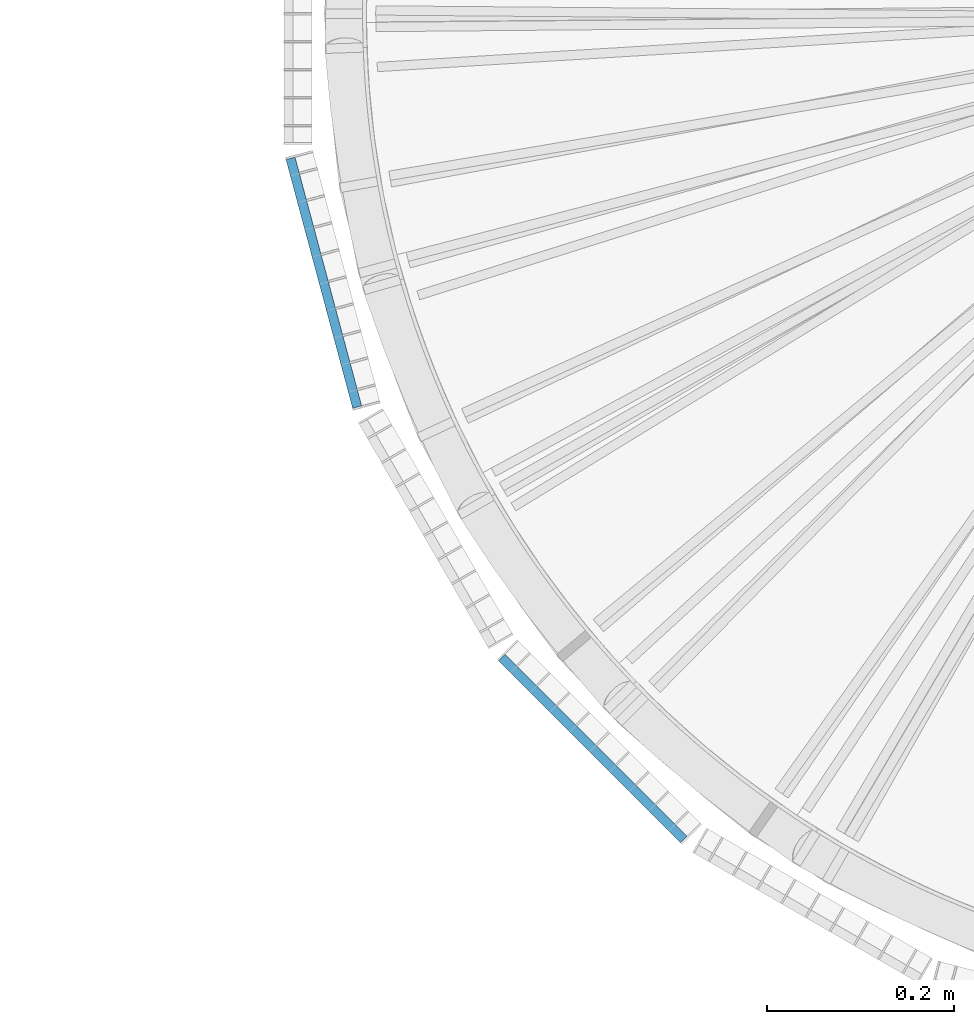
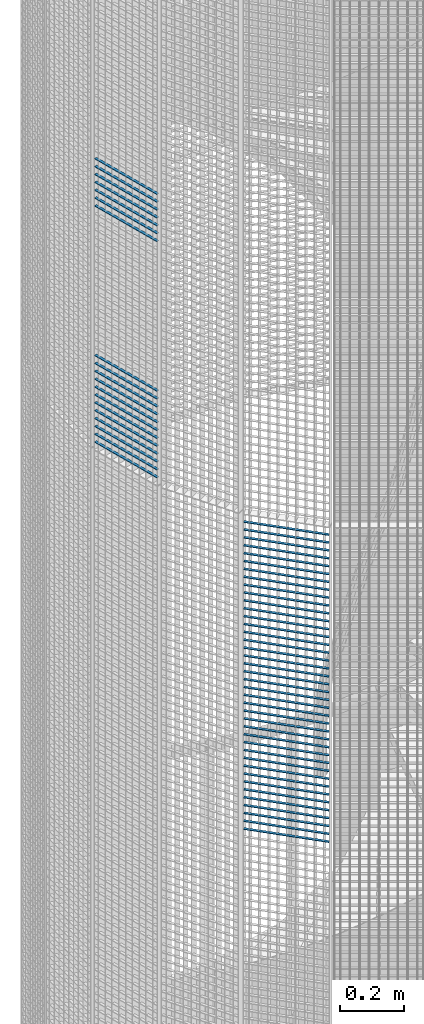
# One storey, part 129 of 1183: 59 beams, 2 elements without a shape of their own.
"""IFC2X3 building model written with IfcOpenShell, lengths in millimetres."""

from ifc_helpers import new_model, si_unit, frame, origin_with_axes, origin_2d_with_axis, place, context, subcontext, project, spatial, rectangle, extrude, material, type_object, element, aggregate, save


model = new_model("IFC2X3")

# Units and contexts
model_context = context("Model", 3, precision=1e-05, world=origin_with_axes())
body_context = subcontext(model_context, "Body", "Model", "MODEL_VIEW")
ifc_project = project(units=[si_unit("LENGTHUNIT", "METRE", prefix="MILLI"), si_unit("AREAUNIT", "SQUARE_METRE"), si_unit("VOLUMEUNIT", "CUBIC_METRE"), si_unit("MASSUNIT", "GRAM", prefix="KILO"), si_unit("TIMEUNIT", "SECOND"), si_unit("PLANEANGLEUNIT", "RADIAN"), si_unit("SOLIDANGLEUNIT", "STERADIAN"), si_unit("THERMODYNAMICTEMPERATUREUNIT", "DEGREE_CELSIUS"), si_unit("LUMINOUSINTENSITYUNIT", "LUMEN")], contexts=[model_context])

# Site, building, storey
site_placement = place(None, origin_with_axes())
site = spatial("IfcSite", under=ifc_project, at=site_placement, Name="Undefined", CompositionType="ELEMENT")
building_placement = place(site_placement, origin_with_axes())
building = spatial("IfcBuilding", under=site, at=building_placement, Name="Undefined", CompositionType="ELEMENT")
storey_placement = place(building_placement, origin_with_axes())
storey = spatial("IfcBuildingStorey", under=building, at=storey_placement, Name="Undefined", CompositionType="ELEMENT", Elevation=0.0)

# Assembly, beams
assembly_1_placement = place(storey_placement, origin_with_axes())
assembly_1 = element("IfcElementAssembly", 1, at=assembly_1_placement, inside=storey, Name="BORDURE", AssemblyPlace="NOTDEFINED", PredefinedType="NOTDEFINED")
ifc_material = material(Name="STEEL/S235JR")
beam_type = type_object("IfcBeamType", Name="PL2*10", PredefinedType="NOTDEFINED")
beam_1_placement = place(assembly_1_placement, frame((-1111.25508286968, -154.895926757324, 3930.0), z_axis=(-0.965925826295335, -0.258819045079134, 0.0), x_axis=(0.258819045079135, -0.965925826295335, 0.0)))
beam_1 = element("IfcBeam", 2, at=beam_1_placement, type_object=beam_type, material=ifc_material, Name="ENTRETOISE", context=body_context, shape_type="SweptSolid", body=[
    extrude(rectangle(XDim=2.0, YDim=10.0, at=origin_2d_with_axis()), frame((275.999999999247, 9.09494701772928e-13, 1.53210777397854e-14), z_axis=(-1.0, 0.0, 0.0), x_axis=(0.0, -1.0, 0.0)), (0.0, 0.0, 1.0), 276.0),
])
beam_2_placement = place(assembly_1_placement, frame((-1111.25508286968, -154.895926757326, 3360.0), z_axis=(-0.965925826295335, -0.258819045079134, 0.0), x_axis=(0.258819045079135, -0.965925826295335, 0.0)))
beam_2 = element("IfcBeam", 3, at=beam_2_placement, type_object=beam_type, material=ifc_material, Name="ENTRETOISE", context=body_context, shape_type="SweptSolid", body=[
    extrude(rectangle(XDim=2.0, YDim=10.0, at=origin_2d_with_axis()), frame((275.999999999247, 9.09494701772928e-13, 1.53210777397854e-14), z_axis=(-1.0, 0.0, 0.0), x_axis=(0.0, -1.0, 0.0)), (0.0, 0.0, 1.0), 276.0),
])
beam_3_placement = place(assembly_1_placement, frame((-1111.25508286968, -154.895926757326, 3330.0), z_axis=(-0.965925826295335, -0.258819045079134, 0.0), x_axis=(0.258819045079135, -0.965925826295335, 0.0)))
beam_3 = element("IfcBeam", 4, at=beam_3_placement, type_object=beam_type, material=ifc_material, Name="ENTRETOISE", context=body_context, shape_type="SweptSolid", body=[
    extrude(rectangle(XDim=2.0, YDim=10.0, at=origin_2d_with_axis()), frame((275.999999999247, 9.09494701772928e-13, 1.53210777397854e-14), z_axis=(-1.0, 0.0, 0.0), x_axis=(0.0, -1.0, 0.0)), (0.0, 0.0, 1.0), 276.0),
])
beam_4_placement = place(assembly_1_placement, frame((-1111.25508286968, -154.895926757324, 3960.0), z_axis=(-0.965925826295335, -0.258819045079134, 0.0), x_axis=(0.258819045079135, -0.965925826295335, 0.0)))
beam_4 = element("IfcBeam", 5, at=beam_4_placement, type_object=beam_type, material=ifc_material, Name="ENTRETOISE", context=body_context, shape_type="SweptSolid", body=[
    extrude(rectangle(XDim=2.0, YDim=10.0, at=origin_2d_with_axis()), frame((275.999999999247, 9.09494701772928e-13, 1.53210777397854e-14), z_axis=(-1.0, 0.0, 0.0), x_axis=(0.0, -1.0, 0.0)), (0.0, 0.0, 1.0), 276.0),
])
beam_5_placement = place(assembly_1_placement, frame((-1111.25508286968, -154.895926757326, 3300.0), z_axis=(-0.965925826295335, -0.258819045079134, 0.0), x_axis=(0.258819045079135, -0.965925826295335, 0.0)))
beam_5 = element("IfcBeam", 6, at=beam_5_placement, type_object=beam_type, material=ifc_material, Name="ENTRETOISE", context=body_context, shape_type="SweptSolid", body=[
    extrude(rectangle(XDim=2.0, YDim=10.0, at=origin_2d_with_axis()), frame((275.999999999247, 9.09494701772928e-13, 1.53210777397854e-14), z_axis=(-1.0, 0.0, 0.0), x_axis=(0.0, -1.0, 0.0)), (0.0, 0.0, 1.0), 276.0),
])
beam_6_placement = place(assembly_1_placement, frame((-1111.25508286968, -154.895926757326, 3270.0), z_axis=(-0.965925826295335, -0.258819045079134, 0.0), x_axis=(0.258819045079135, -0.965925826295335, 0.0)))
beam_6 = element("IfcBeam", 7, at=beam_6_placement, type_object=beam_type, material=ifc_material, Name="ENTRETOISE", context=body_context, shape_type="SweptSolid", body=[
    extrude(rectangle(XDim=2.0, YDim=10.0, at=origin_2d_with_axis()), frame((275.999999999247, 9.09494701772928e-13, 1.53210777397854e-14), z_axis=(-1.0, 0.0, 0.0), x_axis=(0.0, -1.0, 0.0)), (0.0, 0.0, 1.0), 276.0),
])
beam_7_placement = place(assembly_1_placement, frame((-1111.25508286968, -154.895926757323, 3990.0), z_axis=(-0.965925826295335, -0.258819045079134, 0.0), x_axis=(0.258819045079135, -0.965925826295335, 0.0)))
beam_7 = element("IfcBeam", 8, at=beam_7_placement, type_object=beam_type, material=ifc_material, Name="ENTRETOISE", context=body_context, shape_type="SweptSolid", body=[
    extrude(rectangle(XDim=2.0, YDim=10.0, at=origin_2d_with_axis()), frame((275.999999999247, 9.09494701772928e-13, 1.53210777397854e-14), z_axis=(-1.0, 0.0, 0.0), x_axis=(0.0, -1.0, 0.0)), (0.0, 0.0, 1.0), 276.0),
])
beam_8_placement = place(assembly_1_placement, frame((-1111.25508286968, -154.895926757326, 3240.0), z_axis=(-0.965925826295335, -0.258819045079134, 0.0), x_axis=(0.258819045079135, -0.965925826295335, 0.0)))
beam_8 = element("IfcBeam", 9, at=beam_8_placement, type_object=beam_type, material=ifc_material, Name="ENTRETOISE", context=body_context, shape_type="SweptSolid", body=[
    extrude(rectangle(XDim=2.0, YDim=10.0, at=origin_2d_with_axis()), frame((275.999999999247, 9.09494701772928e-13, 1.53210777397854e-14), z_axis=(-1.0, 0.0, 0.0), x_axis=(0.0, -1.0, 0.0)), (0.0, 0.0, 1.0), 276.0),
])
beam_9_placement = place(assembly_1_placement, frame((-1111.25508286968, -154.895926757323, 4020.0), z_axis=(-0.965925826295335, -0.258819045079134, 0.0), x_axis=(0.258819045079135, -0.965925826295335, 0.0)))
beam_9 = element("IfcBeam", 10, at=beam_9_placement, type_object=beam_type, material=ifc_material, Name="ENTRETOISE", context=body_context, shape_type="SweptSolid", body=[
    extrude(rectangle(XDim=2.0, YDim=10.0, at=origin_2d_with_axis()), frame((275.999999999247, 9.09494701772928e-13, 1.53210777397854e-14), z_axis=(-1.0, 0.0, 0.0), x_axis=(0.0, -1.0, 0.0)), (0.0, 0.0, 1.0), 276.0),
])
beam_10_placement = place(assembly_1_placement, frame((-1111.25508286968, -154.895926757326, 3210.0), z_axis=(-0.965925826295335, -0.258819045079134, 0.0), x_axis=(0.258819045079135, -0.965925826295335, 0.0)))
beam_10 = element("IfcBeam", 11, at=beam_10_placement, type_object=beam_type, material=ifc_material, Name="ENTRETOISE", context=body_context, shape_type="SweptSolid", body=[
    extrude(rectangle(XDim=2.0, YDim=10.0, at=origin_2d_with_axis()), frame((275.999999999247, 9.09494701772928e-13, 1.53210777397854e-14), z_axis=(-1.0, 0.0, 0.0), x_axis=(0.0, -1.0, 0.0)), (0.0, 0.0, 1.0), 276.0),
])
beam_11_placement = place(assembly_1_placement, frame((-1111.25508286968, -154.895926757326, 3180.0), z_axis=(-0.965925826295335, -0.258819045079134, 0.0), x_axis=(0.258819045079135, -0.965925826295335, 0.0)))
beam_11 = element("IfcBeam", 12, at=beam_11_placement, type_object=beam_type, material=ifc_material, Name="ENTRETOISE", context=body_context, shape_type="SweptSolid", body=[
    extrude(rectangle(XDim=2.0, YDim=10.0, at=origin_2d_with_axis()), frame((275.999999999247, 9.09494701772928e-13, 1.53210777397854e-14), z_axis=(-1.0, 0.0, 0.0), x_axis=(0.0, -1.0, 0.0)), (0.0, 0.0, 1.0), 276.0),
])
beam_12_placement = place(assembly_1_placement, frame((-1111.25508286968, -154.895926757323, 4050.0), z_axis=(-0.965925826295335, -0.258819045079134, 0.0), x_axis=(0.258819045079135, -0.965925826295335, 0.0)))
beam_12 = element("IfcBeam", 13, at=beam_12_placement, type_object=beam_type, material=ifc_material, Name="ENTRETOISE", context=body_context, shape_type="SweptSolid", body=[
    extrude(rectangle(XDim=2.0, YDim=10.0, at=origin_2d_with_axis()), frame((275.999999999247, 9.09494701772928e-13, 1.53210777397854e-14), z_axis=(-1.0, 0.0, 0.0), x_axis=(0.0, -1.0, 0.0)), (0.0, 0.0, 1.0), 276.0),
])
beam_13_placement = place(assembly_1_placement, frame((-1111.25508286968, -154.895926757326, 3150.0), z_axis=(-0.965925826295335, -0.258819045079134, 0.0), x_axis=(0.258819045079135, -0.965925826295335, 0.0)))
beam_13 = element("IfcBeam", 14, at=beam_13_placement, type_object=beam_type, material=ifc_material, Name="ENTRETOISE", context=body_context, shape_type="SweptSolid", body=[
    extrude(rectangle(XDim=2.0, YDim=10.0, at=origin_2d_with_axis()), frame((275.999999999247, 9.09494701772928e-13, 1.53210777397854e-14), z_axis=(-1.0, 0.0, 0.0), x_axis=(0.0, -1.0, 0.0)), (0.0, 0.0, 1.0), 276.0),
])
beam_14_placement = place(assembly_1_placement, frame((-1111.25508286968, -154.895926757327, 3120.0), z_axis=(-0.965925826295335, -0.258819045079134, 0.0), x_axis=(0.258819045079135, -0.965925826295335, 0.0)))
beam_14 = element("IfcBeam", 15, at=beam_14_placement, type_object=beam_type, material=ifc_material, Name="ENTRETOISE", context=body_context, shape_type="SweptSolid", body=[
    extrude(rectangle(XDim=2.0, YDim=10.0, at=origin_2d_with_axis()), frame((275.999999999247, 9.09494701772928e-13, 1.53210777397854e-14), z_axis=(-1.0, 0.0, 0.0), x_axis=(0.0, -1.0, 0.0)), (0.0, 0.0, 1.0), 276.0),
])
beam_15_placement = place(assembly_1_placement, frame((-1111.25508286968, -154.895926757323, 4080.0), z_axis=(-0.965925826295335, -0.258819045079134, 0.0), x_axis=(0.258819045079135, -0.965925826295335, 0.0)))
beam_15 = element("IfcBeam", 16, at=beam_15_placement, type_object=beam_type, material=ifc_material, Name="ENTRETOISE", context=body_context, shape_type="SweptSolid", body=[
    extrude(rectangle(XDim=2.0, YDim=10.0, at=origin_2d_with_axis()), frame((275.999999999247, 9.09494701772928e-13, 1.53210777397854e-14), z_axis=(-1.0, 0.0, 0.0), x_axis=(0.0, -1.0, 0.0)), (0.0, 0.0, 1.0), 276.0),
])
beam_16_placement = place(assembly_1_placement, frame((-1111.25508286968, -154.895926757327, 3090.0), z_axis=(-0.965925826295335, -0.258819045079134, 0.0), x_axis=(0.258819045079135, -0.965925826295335, 0.0)))
beam_16 = element("IfcBeam", 17, at=beam_16_placement, type_object=beam_type, material=ifc_material, Name="ENTRETOISE", context=body_context, shape_type="SweptSolid", body=[
    extrude(rectangle(XDim=2.0, YDim=10.0, at=origin_2d_with_axis()), frame((275.999999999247, 9.09494701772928e-13, 1.53210777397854e-14), z_axis=(-1.0, 0.0, 0.0), x_axis=(0.0, -1.0, 0.0)), (0.0, 0.0, 1.0), 276.0),
])
beam_17_placement = place(assembly_1_placement, frame((-1111.25508286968, -154.895926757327, 3060.0), z_axis=(-0.965925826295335, -0.258819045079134, 0.0), x_axis=(0.258819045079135, -0.965925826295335, 0.0)))
beam_17 = element("IfcBeam", 18, at=beam_17_placement, type_object=beam_type, material=ifc_material, Name="ENTRETOISE", context=body_context, shape_type="SweptSolid", body=[
    extrude(rectangle(XDim=2.0, YDim=10.0, at=origin_2d_with_axis()), frame((275.999999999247, 9.09494701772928e-13, 1.53210777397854e-14), z_axis=(-1.0, 0.0, 0.0), x_axis=(0.0, -1.0, 0.0)), (0.0, 0.0, 1.0), 276.0),
])
beam_18_placement = place(assembly_1_placement, frame((-1111.25508286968, -154.895926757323, 4110.0), z_axis=(-0.965925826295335, -0.258819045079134, 0.0), x_axis=(0.258819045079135, -0.965925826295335, 0.0)))
beam_18 = element("IfcBeam", 19, at=beam_18_placement, type_object=beam_type, material=ifc_material, Name="ENTRETOISE", context=body_context, shape_type="SweptSolid", body=[
    extrude(rectangle(XDim=2.0, YDim=10.0, at=origin_2d_with_axis()), frame((275.999999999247, 9.09494701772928e-13, 1.53210777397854e-14), z_axis=(-1.0, 0.0, 0.0), x_axis=(0.0, -1.0, 0.0)), (0.0, 0.0, 1.0), 276.0),
])
beam_19_placement = place(assembly_1_placement, frame((-1111.25508286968, -154.895926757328, 3030.0), z_axis=(-0.965925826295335, -0.258819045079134, 0.0), x_axis=(0.258819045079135, -0.965925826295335, 0.0)))
beam_19 = element("IfcBeam", 20, at=beam_19_placement, type_object=beam_type, material=ifc_material, Name="ENTRETOISE", context=body_context, shape_type="SweptSolid", body=[
    extrude(rectangle(XDim=2.0, YDim=10.0, at=origin_2d_with_axis()), frame((275.999999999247, 9.09494701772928e-13, 1.53210777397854e-14), z_axis=(-1.0, 0.0, 0.0), x_axis=(0.0, -1.0, 0.0)), (0.0, 0.0, 1.0), 276.0),
])
aggregate(assembly_1, [beam_1, beam_2, beam_3, beam_4, beam_5, beam_6, beam_7, beam_8, beam_9, beam_10, beam_11, beam_12, beam_13, beam_14, beam_15, beam_16, beam_17, beam_18, beam_19])

assembly_2_placement = place(storey_placement, origin_with_axes())
assembly_2 = element("IfcElementAssembly", 21, at=assembly_2_placement, inside=storey, Name="BORDURE", AssemblyPlace="NOTDEFINED", PredefinedType="NOTDEFINED")
beam_20_placement = place(assembly_2_placement, frame((-884.927168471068, -689.771348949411, 2970.0), z_axis=(-0.70710678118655, -0.707106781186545, 0.0), x_axis=(0.707106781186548, -0.707106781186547, 0.0)))
beam_20 = element("IfcBeam", 22, at=beam_20_placement, type_object=beam_type, material=ifc_material, Name="ENTRETOISE", context=body_context, shape_type="SweptSolid", body=[
    extrude(rectangle(XDim=2.0, YDim=10.0, at=origin_2d_with_axis()), frame((275.999999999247, 9.09494701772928e-13, 1.53210777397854e-14), z_axis=(-1.0, 0.0, 0.0), x_axis=(0.0, -1.0, 0.0)), (0.0, 0.0, 1.0), 276.0),
])
beam_21_placement = place(assembly_2_placement, frame((-884.927168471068, -689.771348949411, 2940.0), z_axis=(-0.70710678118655, -0.707106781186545, 0.0), x_axis=(0.707106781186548, -0.707106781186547, 0.0)))
beam_21 = element("IfcBeam", 23, at=beam_21_placement, type_object=beam_type, material=ifc_material, Name="ENTRETOISE", context=body_context, shape_type="SweptSolid", body=[
    extrude(rectangle(XDim=2.0, YDim=10.0, at=origin_2d_with_axis()), frame((275.999999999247, 9.09494701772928e-13, 1.53210777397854e-14), z_axis=(-1.0, 0.0, 0.0), x_axis=(0.0, -1.0, 0.0)), (0.0, 0.0, 1.0), 276.0),
])
beam_22_placement = place(assembly_2_placement, frame((-884.927168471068, -689.771348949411, 2910.0), z_axis=(-0.70710678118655, -0.707106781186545, 0.0), x_axis=(0.707106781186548, -0.707106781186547, 0.0)))
beam_22 = element("IfcBeam", 24, at=beam_22_placement, type_object=beam_type, material=ifc_material, Name="ENTRETOISE", context=body_context, shape_type="SweptSolid", body=[
    extrude(rectangle(XDim=2.0, YDim=10.0, at=origin_2d_with_axis()), frame((275.999999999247, 9.09494701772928e-13, 1.53210777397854e-14), z_axis=(-1.0, 0.0, 0.0), x_axis=(0.0, -1.0, 0.0)), (0.0, 0.0, 1.0), 276.0),
])
beam_23_placement = place(assembly_2_placement, frame((-884.927168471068, -689.771348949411, 2880.0), z_axis=(-0.70710678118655, -0.707106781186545, 0.0), x_axis=(0.707106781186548, -0.707106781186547, 0.0)))
beam_23 = element("IfcBeam", 25, at=beam_23_placement, type_object=beam_type, material=ifc_material, Name="ENTRETOISE", context=body_context, shape_type="SweptSolid", body=[
    extrude(rectangle(XDim=2.0, YDim=10.0, at=origin_2d_with_axis()), frame((275.999999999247, 9.09494701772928e-13, 1.53210777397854e-14), z_axis=(-1.0, 0.0, 0.0), x_axis=(0.0, -1.0, 0.0)), (0.0, 0.0, 1.0), 276.0),
])
beam_24_placement = place(assembly_2_placement, frame((-884.927168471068, -689.771348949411, 2850.0), z_axis=(-0.70710678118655, -0.707106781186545, 0.0), x_axis=(0.707106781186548, -0.707106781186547, 0.0)))
beam_24 = element("IfcBeam", 26, at=beam_24_placement, type_object=beam_type, material=ifc_material, Name="ENTRETOISE", context=body_context, shape_type="SweptSolid", body=[
    extrude(rectangle(XDim=2.0, YDim=10.0, at=origin_2d_with_axis()), frame((275.999999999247, 9.09494701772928e-13, 1.53210777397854e-14), z_axis=(-1.0, 0.0, 0.0), x_axis=(0.0, -1.0, 0.0)), (0.0, 0.0, 1.0), 276.0),
])
beam_25_placement = place(assembly_2_placement, frame((-884.927168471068, -689.771348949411, 2820.0), z_axis=(-0.70710678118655, -0.707106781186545, 0.0), x_axis=(0.707106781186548, -0.707106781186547, 0.0)))
beam_25 = element("IfcBeam", 27, at=beam_25_placement, type_object=beam_type, material=ifc_material, Name="ENTRETOISE", context=body_context, shape_type="SweptSolid", body=[
    extrude(rectangle(XDim=2.0, YDim=10.0, at=origin_2d_with_axis()), frame((275.999999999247, 9.09494701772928e-13, 1.53210777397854e-14), z_axis=(-1.0, 0.0, 0.0), x_axis=(0.0, -1.0, 0.0)), (0.0, 0.0, 1.0), 276.0),
])
beam_26_placement = place(assembly_2_placement, frame((-884.927168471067, -689.771348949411, 2790.0), z_axis=(-0.70710678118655, -0.707106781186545, 0.0), x_axis=(0.707106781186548, -0.707106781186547, 0.0)))
beam_26 = element("IfcBeam", 28, at=beam_26_placement, type_object=beam_type, material=ifc_material, Name="ENTRETOISE", context=body_context, shape_type="SweptSolid", body=[
    extrude(rectangle(XDim=2.0, YDim=10.0, at=origin_2d_with_axis()), frame((275.999999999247, 9.09494701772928e-13, 1.53210777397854e-14), z_axis=(-1.0, 0.0, 0.0), x_axis=(0.0, -1.0, 0.0)), (0.0, 0.0, 1.0), 276.0),
])
beam_27_placement = place(assembly_2_placement, frame((-884.927168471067, -689.771348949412, 2760.0), z_axis=(-0.70710678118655, -0.707106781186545, 0.0), x_axis=(0.707106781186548, -0.707106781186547, 0.0)))
beam_27 = element("IfcBeam", 29, at=beam_27_placement, type_object=beam_type, material=ifc_material, Name="ENTRETOISE", context=body_context, shape_type="SweptSolid", body=[
    extrude(rectangle(XDim=2.0, YDim=10.0, at=origin_2d_with_axis()), frame((275.999999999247, 9.09494701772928e-13, 1.53210777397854e-14), z_axis=(-1.0, 0.0, 0.0), x_axis=(0.0, -1.0, 0.0)), (0.0, 0.0, 1.0), 276.0),
])
beam_28_placement = place(assembly_2_placement, frame((-884.927168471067, -689.771348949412, 2730.0), z_axis=(-0.70710678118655, -0.707106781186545, 0.0), x_axis=(0.707106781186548, -0.707106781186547, 0.0)))
beam_28 = element("IfcBeam", 30, at=beam_28_placement, type_object=beam_type, material=ifc_material, Name="ENTRETOISE", context=body_context, shape_type="SweptSolid", body=[
    extrude(rectangle(XDim=2.0, YDim=10.0, at=origin_2d_with_axis()), frame((275.999999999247, 9.09494701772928e-13, 1.53210777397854e-14), z_axis=(-1.0, 0.0, 0.0), x_axis=(0.0, -1.0, 0.0)), (0.0, 0.0, 1.0), 276.0),
])
beam_29_placement = place(assembly_2_placement, frame((-884.927168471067, -689.771348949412, 2700.0), z_axis=(-0.70710678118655, -0.707106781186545, 0.0), x_axis=(0.707106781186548, -0.707106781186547, 0.0)))
beam_29 = element("IfcBeam", 31, at=beam_29_placement, type_object=beam_type, material=ifc_material, Name="ENTRETOISE", context=body_context, shape_type="SweptSolid", body=[
    extrude(rectangle(XDim=2.0, YDim=10.0, at=origin_2d_with_axis()), frame((275.999999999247, 9.09494701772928e-13, 1.53210777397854e-14), z_axis=(-1.0, 0.0, 0.0), x_axis=(0.0, -1.0, 0.0)), (0.0, 0.0, 1.0), 276.0),
])
beam_30_placement = place(assembly_2_placement, frame((-884.927168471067, -689.771348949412, 2670.0), z_axis=(-0.70710678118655, -0.707106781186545, 0.0), x_axis=(0.707106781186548, -0.707106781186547, 0.0)))
beam_30 = element("IfcBeam", 32, at=beam_30_placement, type_object=beam_type, material=ifc_material, Name="ENTRETOISE", context=body_context, shape_type="SweptSolid", body=[
    extrude(rectangle(XDim=2.0, YDim=10.0, at=origin_2d_with_axis()), frame((275.999999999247, 9.09494701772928e-13, 1.53210777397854e-14), z_axis=(-1.0, 0.0, 0.0), x_axis=(0.0, -1.0, 0.0)), (0.0, 0.0, 1.0), 276.0),
])
beam_31_placement = place(assembly_2_placement, frame((-884.927168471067, -689.771348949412, 2640.0), z_axis=(-0.70710678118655, -0.707106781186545, 0.0), x_axis=(0.707106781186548, -0.707106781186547, 0.0)))
beam_31 = element("IfcBeam", 33, at=beam_31_placement, type_object=beam_type, material=ifc_material, Name="ENTRETOISE", context=body_context, shape_type="SweptSolid", body=[
    extrude(rectangle(XDim=2.0, YDim=10.0, at=origin_2d_with_axis()), frame((275.999999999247, 9.09494701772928e-13, 1.53210777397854e-14), z_axis=(-1.0, 0.0, 0.0), x_axis=(0.0, -1.0, 0.0)), (0.0, 0.0, 1.0), 276.0),
])
beam_32_placement = place(assembly_2_placement, frame((-884.927168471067, -689.771348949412, 2610.0), z_axis=(-0.70710678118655, -0.707106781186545, 0.0), x_axis=(0.707106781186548, -0.707106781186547, 0.0)))
beam_32 = element("IfcBeam", 34, at=beam_32_placement, type_object=beam_type, material=ifc_material, Name="ENTRETOISE", context=body_context, shape_type="SweptSolid", body=[
    extrude(rectangle(XDim=2.0, YDim=10.0, at=origin_2d_with_axis()), frame((275.999999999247, 9.09494701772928e-13, 1.53210777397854e-14), z_axis=(-1.0, 0.0, 0.0), x_axis=(0.0, -1.0, 0.0)), (0.0, 0.0, 1.0), 276.0),
])
beam_33_placement = place(assembly_2_placement, frame((-884.927168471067, -689.771348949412, 2580.0), z_axis=(-0.70710678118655, -0.707106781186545, 0.0), x_axis=(0.707106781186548, -0.707106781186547, 0.0)))
beam_33 = element("IfcBeam", 35, at=beam_33_placement, type_object=beam_type, material=ifc_material, Name="ENTRETOISE", context=body_context, shape_type="SweptSolid", body=[
    extrude(rectangle(XDim=2.0, YDim=10.0, at=origin_2d_with_axis()), frame((275.999999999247, 9.09494701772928e-13, 1.53210777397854e-14), z_axis=(-1.0, 0.0, 0.0), x_axis=(0.0, -1.0, 0.0)), (0.0, 0.0, 1.0), 276.0),
])
beam_34_placement = place(assembly_2_placement, frame((-884.927168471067, -689.771348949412, 2550.0), z_axis=(-0.70710678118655, -0.707106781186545, 0.0), x_axis=(0.707106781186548, -0.707106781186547, 0.0)))
beam_34 = element("IfcBeam", 36, at=beam_34_placement, type_object=beam_type, material=ifc_material, Name="ENTRETOISE", context=body_context, shape_type="SweptSolid", body=[
    extrude(rectangle(XDim=2.0, YDim=10.0, at=origin_2d_with_axis()), frame((275.999999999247, 9.09494701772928e-13, 1.53210777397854e-14), z_axis=(-1.0, 0.0, 0.0), x_axis=(0.0, -1.0, 0.0)), (0.0, 0.0, 1.0), 276.0),
])
beam_35_placement = place(assembly_2_placement, frame((-884.927168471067, -689.771348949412, 2520.0), z_axis=(-0.70710678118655, -0.707106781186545, 0.0), x_axis=(0.707106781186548, -0.707106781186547, 0.0)))
beam_35 = element("IfcBeam", 37, at=beam_35_placement, type_object=beam_type, material=ifc_material, Name="ENTRETOISE", context=body_context, shape_type="SweptSolid", body=[
    extrude(rectangle(XDim=2.0, YDim=10.0, at=origin_2d_with_axis()), frame((275.999999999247, 9.09494701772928e-13, 1.53210777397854e-14), z_axis=(-1.0, 0.0, 0.0), x_axis=(0.0, -1.0, 0.0)), (0.0, 0.0, 1.0), 276.0),
])
beam_36_placement = place(assembly_2_placement, frame((-884.927168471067, -689.771348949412, 2490.0), z_axis=(-0.70710678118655, -0.707106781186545, 0.0), x_axis=(0.707106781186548, -0.707106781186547, 0.0)))
beam_36 = element("IfcBeam", 38, at=beam_36_placement, type_object=beam_type, material=ifc_material, Name="ENTRETOISE", context=body_context, shape_type="SweptSolid", body=[
    extrude(rectangle(XDim=2.0, YDim=10.0, at=origin_2d_with_axis()), frame((275.999999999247, 9.09494701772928e-13, 1.53210777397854e-14), z_axis=(-1.0, 0.0, 0.0), x_axis=(0.0, -1.0, 0.0)), (0.0, 0.0, 1.0), 276.0),
])
beam_37_placement = place(assembly_2_placement, frame((-884.927168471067, -689.771348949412, 2460.0), z_axis=(-0.70710678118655, -0.707106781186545, 0.0), x_axis=(0.707106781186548, -0.707106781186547, 0.0)))
beam_37 = element("IfcBeam", 39, at=beam_37_placement, type_object=beam_type, material=ifc_material, Name="ENTRETOISE", context=body_context, shape_type="SweptSolid", body=[
    extrude(rectangle(XDim=2.0, YDim=10.0, at=origin_2d_with_axis()), frame((275.999999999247, 9.09494701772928e-13, 1.53210777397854e-14), z_axis=(-1.0, 0.0, 0.0), x_axis=(0.0, -1.0, 0.0)), (0.0, 0.0, 1.0), 276.0),
])
beam_38_placement = place(assembly_2_placement, frame((-884.927168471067, -689.771348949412, 2430.0), z_axis=(-0.70710678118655, -0.707106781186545, 0.0), x_axis=(0.707106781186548, -0.707106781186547, 0.0)))
beam_38 = element("IfcBeam", 40, at=beam_38_placement, type_object=beam_type, material=ifc_material, Name="ENTRETOISE", context=body_context, shape_type="SweptSolid", body=[
    extrude(rectangle(XDim=2.0, YDim=10.0, at=origin_2d_with_axis()), frame((275.999999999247, 9.09494701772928e-13, 1.53210777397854e-14), z_axis=(-1.0, 0.0, 0.0), x_axis=(0.0, -1.0, 0.0)), (0.0, 0.0, 1.0), 276.0),
])
beam_39_placement = place(assembly_2_placement, frame((-884.927168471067, -689.771348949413, 2400.0), z_axis=(-0.70710678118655, -0.707106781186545, 0.0), x_axis=(0.707106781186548, -0.707106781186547, 0.0)))
beam_39 = element("IfcBeam", 41, at=beam_39_placement, type_object=beam_type, material=ifc_material, Name="ENTRETOISE", context=body_context, shape_type="SweptSolid", body=[
    extrude(rectangle(XDim=2.0, YDim=10.0, at=origin_2d_with_axis()), frame((275.999999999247, 9.09494701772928e-13, 1.53210777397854e-14), z_axis=(-1.0, 0.0, 0.0), x_axis=(0.0, -1.0, 0.0)), (0.0, 0.0, 1.0), 276.0),
])
beam_40_placement = place(assembly_2_placement, frame((-884.927168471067, -689.771348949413, 2370.0), z_axis=(-0.70710678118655, -0.707106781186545, 0.0), x_axis=(0.707106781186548, -0.707106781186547, 0.0)))
beam_40 = element("IfcBeam", 42, at=beam_40_placement, type_object=beam_type, material=ifc_material, Name="ENTRETOISE", context=body_context, shape_type="SweptSolid", body=[
    extrude(rectangle(XDim=2.0, YDim=10.0, at=origin_2d_with_axis()), frame((275.999999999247, 9.09494701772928e-13, 1.53210777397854e-14), z_axis=(-1.0, 0.0, 0.0), x_axis=(0.0, -1.0, 0.0)), (0.0, 0.0, 1.0), 276.0),
])
beam_41_placement = place(assembly_2_placement, frame((-884.927168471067, -689.771348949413, 2340.0), z_axis=(-0.70710678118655, -0.707106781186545, 0.0), x_axis=(0.707106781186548, -0.707106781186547, 0.0)))
beam_41 = element("IfcBeam", 43, at=beam_41_placement, type_object=beam_type, material=ifc_material, Name="ENTRETOISE", context=body_context, shape_type="SweptSolid", body=[
    extrude(rectangle(XDim=2.0, YDim=10.0, at=origin_2d_with_axis()), frame((275.999999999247, 9.09494701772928e-13, 1.53210777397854e-14), z_axis=(-1.0, 0.0, 0.0), x_axis=(0.0, -1.0, 0.0)), (0.0, 0.0, 1.0), 276.0),
])
beam_42_placement = place(assembly_2_placement, frame((-884.927168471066, -689.771348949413, 2310.0), z_axis=(-0.70710678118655, -0.707106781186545, 0.0), x_axis=(0.707106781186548, -0.707106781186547, 0.0)))
beam_42 = element("IfcBeam", 44, at=beam_42_placement, type_object=beam_type, material=ifc_material, Name="ENTRETOISE", context=body_context, shape_type="SweptSolid", body=[
    extrude(rectangle(XDim=2.0, YDim=10.0, at=origin_2d_with_axis()), frame((275.999999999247, 9.09494701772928e-13, 1.53210777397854e-14), z_axis=(-1.0, 0.0, 0.0), x_axis=(0.0, -1.0, 0.0)), (0.0, 0.0, 1.0), 276.0),
])
beam_43_placement = place(assembly_2_placement, frame((-884.927168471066, -689.771348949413, 2280.0), z_axis=(-0.70710678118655, -0.707106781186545, 0.0), x_axis=(0.707106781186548, -0.707106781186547, 0.0)))
beam_43 = element("IfcBeam", 45, at=beam_43_placement, type_object=beam_type, material=ifc_material, Name="ENTRETOISE", context=body_context, shape_type="SweptSolid", body=[
    extrude(rectangle(XDim=2.0, YDim=10.0, at=origin_2d_with_axis()), frame((275.999999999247, 9.09494701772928e-13, 1.53210777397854e-14), z_axis=(-1.0, 0.0, 0.0), x_axis=(0.0, -1.0, 0.0)), (0.0, 0.0, 1.0), 276.0),
])
beam_44_placement = place(assembly_2_placement, frame((-884.927168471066, -689.771348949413, 2250.0), z_axis=(-0.70710678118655, -0.707106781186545, 0.0), x_axis=(0.707106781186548, -0.707106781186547, 0.0)))
beam_44 = element("IfcBeam", 46, at=beam_44_placement, type_object=beam_type, material=ifc_material, Name="ENTRETOISE", context=body_context, shape_type="SweptSolid", body=[
    extrude(rectangle(XDim=2.0, YDim=10.0, at=origin_2d_with_axis()), frame((275.999999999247, 9.09494701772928e-13, 1.53210777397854e-14), z_axis=(-1.0, 0.0, 0.0), x_axis=(0.0, -1.0, 0.0)), (0.0, 0.0, 1.0), 276.0),
])
beam_45_placement = place(assembly_2_placement, frame((-884.927168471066, -689.771348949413, 2220.0), z_axis=(-0.70710678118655, -0.707106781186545, 0.0), x_axis=(0.707106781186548, -0.707106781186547, 0.0)))
beam_45 = element("IfcBeam", 47, at=beam_45_placement, type_object=beam_type, material=ifc_material, Name="ENTRETOISE", context=body_context, shape_type="SweptSolid", body=[
    extrude(rectangle(XDim=2.0, YDim=10.0, at=origin_2d_with_axis()), frame((275.999999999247, 9.09494701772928e-13, 1.53210777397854e-14), z_axis=(-1.0, 0.0, 0.0), x_axis=(0.0, -1.0, 0.0)), (0.0, 0.0, 1.0), 276.0),
])
beam_46_placement = place(assembly_2_placement, frame((-884.927168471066, -689.771348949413, 2190.0), z_axis=(-0.70710678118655, -0.707106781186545, 0.0), x_axis=(0.707106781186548, -0.707106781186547, 0.0)))
beam_46 = element("IfcBeam", 48, at=beam_46_placement, type_object=beam_type, material=ifc_material, Name="ENTRETOISE", context=body_context, shape_type="SweptSolid", body=[
    extrude(rectangle(XDim=2.0, YDim=10.0, at=origin_2d_with_axis()), frame((275.999999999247, 9.09494701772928e-13, 1.53210777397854e-14), z_axis=(-1.0, 0.0, 0.0), x_axis=(0.0, -1.0, 0.0)), (0.0, 0.0, 1.0), 276.0),
])
beam_47_placement = place(assembly_2_placement, frame((-884.927168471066, -689.771348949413, 2160.0), z_axis=(-0.70710678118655, -0.707106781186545, 0.0), x_axis=(0.707106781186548, -0.707106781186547, 0.0)))
beam_47 = element("IfcBeam", 49, at=beam_47_placement, type_object=beam_type, material=ifc_material, Name="ENTRETOISE", context=body_context, shape_type="SweptSolid", body=[
    extrude(rectangle(XDim=2.0, YDim=10.0, at=origin_2d_with_axis()), frame((275.999999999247, 9.09494701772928e-13, 1.53210777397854e-14), z_axis=(-1.0, 0.0, 0.0), x_axis=(0.0, -1.0, 0.0)), (0.0, 0.0, 1.0), 276.0),
])
beam_48_placement = place(assembly_2_placement, frame((-884.927168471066, -689.771348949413, 2130.0), z_axis=(-0.70710678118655, -0.707106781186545, 0.0), x_axis=(0.707106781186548, -0.707106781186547, 0.0)))
beam_48 = element("IfcBeam", 50, at=beam_48_placement, type_object=beam_type, material=ifc_material, Name="ENTRETOISE", context=body_context, shape_type="SweptSolid", body=[
    extrude(rectangle(XDim=2.0, YDim=10.0, at=origin_2d_with_axis()), frame((275.999999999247, 9.09494701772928e-13, 1.53210777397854e-14), z_axis=(-1.0, 0.0, 0.0), x_axis=(0.0, -1.0, 0.0)), (0.0, 0.0, 1.0), 276.0),
])
beam_49_placement = place(assembly_2_placement, frame((-884.927168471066, -689.771348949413, 2100.0), z_axis=(-0.70710678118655, -0.707106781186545, 0.0), x_axis=(0.707106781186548, -0.707106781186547, 0.0)))
beam_49 = element("IfcBeam", 51, at=beam_49_placement, type_object=beam_type, material=ifc_material, Name="ENTRETOISE", context=body_context, shape_type="SweptSolid", body=[
    extrude(rectangle(XDim=2.0, YDim=10.0, at=origin_2d_with_axis()), frame((275.999999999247, 9.09494701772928e-13, 1.53210777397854e-14), z_axis=(-1.0, 0.0, 0.0), x_axis=(0.0, -1.0, 0.0)), (0.0, 0.0, 1.0), 276.0),
])
beam_50_placement = place(assembly_2_placement, frame((-884.927168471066, -689.771348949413, 2070.0), z_axis=(-0.70710678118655, -0.707106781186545, 0.0), x_axis=(0.707106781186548, -0.707106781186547, 0.0)))
beam_50 = element("IfcBeam", 52, at=beam_50_placement, type_object=beam_type, material=ifc_material, Name="ENTRETOISE", context=body_context, shape_type="SweptSolid", body=[
    extrude(rectangle(XDim=2.0, YDim=10.0, at=origin_2d_with_axis()), frame((275.999999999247, 9.09494701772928e-13, 1.53210777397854e-14), z_axis=(-1.0, 0.0, 0.0), x_axis=(0.0, -1.0, 0.0)), (0.0, 0.0, 1.0), 276.0),
])
beam_51_placement = place(assembly_2_placement, frame((-884.927168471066, -689.771348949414, 2040.0), z_axis=(-0.70710678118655, -0.707106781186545, 0.0), x_axis=(0.707106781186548, -0.707106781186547, 0.0)))
beam_51 = element("IfcBeam", 53, at=beam_51_placement, type_object=beam_type, material=ifc_material, Name="ENTRETOISE", context=body_context, shape_type="SweptSolid", body=[
    extrude(rectangle(XDim=2.0, YDim=10.0, at=origin_2d_with_axis()), frame((275.999999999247, 9.09494701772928e-13, 1.53210777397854e-14), z_axis=(-1.0, 0.0, 0.0), x_axis=(0.0, -1.0, 0.0)), (0.0, 0.0, 1.0), 276.0),
])
beam_52_placement = place(assembly_2_placement, frame((-884.927168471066, -689.771348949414, 2010.0), z_axis=(-0.70710678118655, -0.707106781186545, 0.0), x_axis=(0.707106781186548, -0.707106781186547, 0.0)))
beam_52 = element("IfcBeam", 54, at=beam_52_placement, type_object=beam_type, material=ifc_material, Name="ENTRETOISE", context=body_context, shape_type="SweptSolid", body=[
    extrude(rectangle(XDim=2.0, YDim=10.0, at=origin_2d_with_axis()), frame((275.999999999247, 9.09494701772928e-13, 1.53210777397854e-14), z_axis=(-1.0, 0.0, 0.0), x_axis=(0.0, -1.0, 0.0)), (0.0, 0.0, 1.0), 276.0),
])
beam_53_placement = place(assembly_2_placement, frame((-884.927168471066, -689.771348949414, 1980.0), z_axis=(-0.70710678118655, -0.707106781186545, 0.0), x_axis=(0.707106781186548, -0.707106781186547, 0.0)))
beam_53 = element("IfcBeam", 55, at=beam_53_placement, type_object=beam_type, material=ifc_material, Name="ENTRETOISE", context=body_context, shape_type="SweptSolid", body=[
    extrude(rectangle(XDim=2.0, YDim=10.0, at=origin_2d_with_axis()), frame((275.999999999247, 9.09494701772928e-13, 1.53210777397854e-14), z_axis=(-1.0, 0.0, 0.0), x_axis=(0.0, -1.0, 0.0)), (0.0, 0.0, 1.0), 276.0),
])
beam_54_placement = place(assembly_2_placement, frame((-884.927168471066, -689.771348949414, 1950.0), z_axis=(-0.70710678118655, -0.707106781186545, 0.0), x_axis=(0.707106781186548, -0.707106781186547, 0.0)))
beam_54 = element("IfcBeam", 56, at=beam_54_placement, type_object=beam_type, material=ifc_material, Name="ENTRETOISE", context=body_context, shape_type="SweptSolid", body=[
    extrude(rectangle(XDim=2.0, YDim=10.0, at=origin_2d_with_axis()), frame((275.999999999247, 9.09494701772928e-13, 1.53210777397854e-14), z_axis=(-1.0, 0.0, 0.0), x_axis=(0.0, -1.0, 0.0)), (0.0, 0.0, 1.0), 276.0),
])
beam_55_placement = place(assembly_2_placement, frame((-884.927168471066, -689.771348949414, 1920.0), z_axis=(-0.70710678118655, -0.707106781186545, 0.0), x_axis=(0.707106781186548, -0.707106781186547, 0.0)))
beam_55 = element("IfcBeam", 57, at=beam_55_placement, type_object=beam_type, material=ifc_material, Name="ENTRETOISE", context=body_context, shape_type="SweptSolid", body=[
    extrude(rectangle(XDim=2.0, YDim=10.0, at=origin_2d_with_axis()), frame((275.999999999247, 9.09494701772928e-13, 1.53210777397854e-14), z_axis=(-1.0, 0.0, 0.0), x_axis=(0.0, -1.0, 0.0)), (0.0, 0.0, 1.0), 276.0),
])
beam_56_placement = place(assembly_2_placement, frame((-884.927168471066, -689.771348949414, 1890.0), z_axis=(-0.70710678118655, -0.707106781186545, 0.0), x_axis=(0.707106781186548, -0.707106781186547, 0.0)))
beam_56 = element("IfcBeam", 58, at=beam_56_placement, type_object=beam_type, material=ifc_material, Name="ENTRETOISE", context=body_context, shape_type="SweptSolid", body=[
    extrude(rectangle(XDim=2.0, YDim=10.0, at=origin_2d_with_axis()), frame((275.999999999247, 9.09494701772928e-13, 1.53210777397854e-14), z_axis=(-1.0, 0.0, 0.0), x_axis=(0.0, -1.0, 0.0)), (0.0, 0.0, 1.0), 276.0),
])
beam_57_placement = place(assembly_2_placement, frame((-884.927168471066, -689.771348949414, 1860.0), z_axis=(-0.70710678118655, -0.707106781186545, 0.0), x_axis=(0.707106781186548, -0.707106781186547, 0.0)))
beam_57 = element("IfcBeam", 59, at=beam_57_placement, type_object=beam_type, material=ifc_material, Name="ENTRETOISE", context=body_context, shape_type="SweptSolid", body=[
    extrude(rectangle(XDim=2.0, YDim=10.0, at=origin_2d_with_axis()), frame((275.999999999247, 9.09494701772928e-13, 1.53210777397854e-14), z_axis=(-1.0, 0.0, 0.0), x_axis=(0.0, -1.0, 0.0)), (0.0, 0.0, 1.0), 276.0),
])
beam_58_placement = place(assembly_2_placement, frame((-884.927168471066, -689.771348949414, 1830.0), z_axis=(-0.70710678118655, -0.707106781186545, 0.0), x_axis=(0.707106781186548, -0.707106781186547, 0.0)))
beam_58 = element("IfcBeam", 60, at=beam_58_placement, type_object=beam_type, material=ifc_material, Name="ENTRETOISE", context=body_context, shape_type="SweptSolid", body=[
    extrude(rectangle(XDim=2.0, YDim=10.0, at=origin_2d_with_axis()), frame((275.999999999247, 9.09494701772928e-13, 1.53210777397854e-14), z_axis=(-1.0, 0.0, 0.0), x_axis=(0.0, -1.0, 0.0)), (0.0, 0.0, 1.0), 276.0),
])
beam_59_placement = place(assembly_2_placement, frame((-884.927168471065, -689.771348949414, 1800.0), z_axis=(-0.70710678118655, -0.707106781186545, 0.0), x_axis=(0.707106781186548, -0.707106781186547, 0.0)))
beam_59 = element("IfcBeam", 61, at=beam_59_placement, type_object=beam_type, material=ifc_material, Name="ENTRETOISE", context=body_context, shape_type="SweptSolid", body=[
    extrude(rectangle(XDim=2.0, YDim=10.0, at=origin_2d_with_axis()), frame((275.999999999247, 9.09494701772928e-13, 1.53210777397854e-14), z_axis=(-1.0, 0.0, 0.0), x_axis=(0.0, -1.0, 0.0)), (0.0, 0.0, 1.0), 276.0),
])
aggregate(assembly_2, [beam_20, beam_21, beam_22, beam_23, beam_24, beam_25, beam_26, beam_27, beam_28, beam_29, beam_30, beam_31, beam_32, beam_33, beam_34, beam_35, beam_36, beam_37, beam_38, beam_39, beam_40, beam_41, beam_42, beam_43, beam_44, beam_45, beam_46, beam_47, beam_48, beam_49, beam_50, beam_51, beam_52, beam_53, beam_54, beam_55, beam_56, beam_57, beam_58, beam_59])

save(model, "model.ifc")
